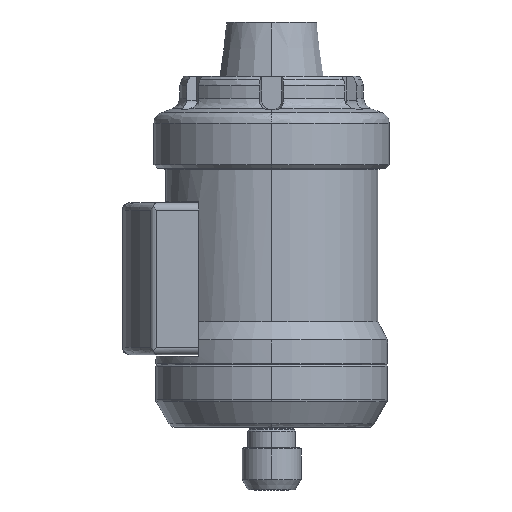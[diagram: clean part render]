
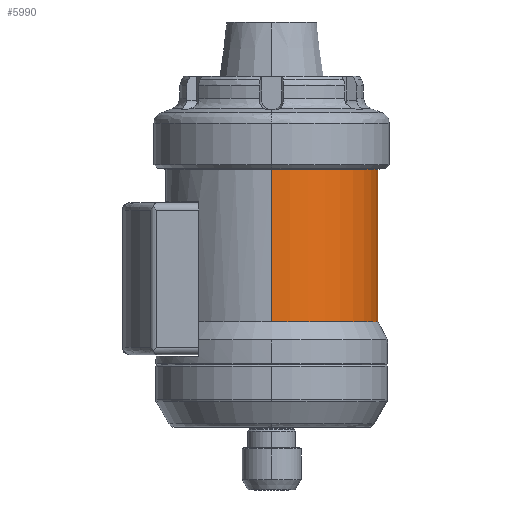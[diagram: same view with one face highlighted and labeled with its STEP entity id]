
A CAD part, front view. The second image highlights one B-rep face of the part: STEP entity #5990.
In plain terms, the highlighted cylindrical face has radius 28.85 mm (diameter 57.7 mm), a partial arc.
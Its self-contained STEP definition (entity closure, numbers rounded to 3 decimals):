
#59 = FACE_OUTER_BOUND ( 'NONE', #4779, .T. ) ;
#143 = CARTESIAN_POINT ( 'NONE',  ( 0., 28.85, -143.852 ) ) ;
#225 = AXIS2_PLACEMENT_3D ( 'NONE', #834, #5838, #6292 ) ;
#238 = DIRECTION ( 'NONE',  ( 0., 0., -1. ) ) ;
#800 = VERTEX_POINT ( 'NONE', #5723 ) ;
#834 = CARTESIAN_POINT ( 'NONE',  ( 0., 0., -12.6 ) ) ;
#1506 = EDGE_CURVE ( 'NONE', #6066, #5614, #5936, .T. ) ;
#1638 = CIRCLE ( 'NONE', #225, 28.85 ) ;
#1893 = CARTESIAN_POINT ( 'NONE',  ( 0., -28.85, -143.852 ) ) ;
#2293 = CYLINDRICAL_SURFACE ( 'NONE', #3183, 28.85 ) ;
#2496 = EDGE_CURVE ( 'NONE', #6066, #800, #1638, .T. ) ;
#2939 = VECTOR ( 'NONE', #238, 1000. ) ;
#3046 = EDGE_CURVE ( 'NONE', #800, #5671, #4247, .T. ) ;
#3183 = AXIS2_PLACEMENT_3D ( 'NONE', #5606, #6207, #6850 ) ;
#3231 = CIRCLE ( 'NONE', #4426, 28.85 ) ;
#3688 = ORIENTED_EDGE ( 'NONE', *, *, #3046, .T. ) ;
#4011 = ORIENTED_EDGE ( 'NONE', *, *, #2496, .T. ) ;
#4247 = LINE ( 'NONE', #1893, #2939 ) ;
#4426 = AXIS2_PLACEMENT_3D ( 'NONE', #6220, #6295, #5102 ) ;
#4734 = EDGE_CURVE ( 'NONE', #5671, #5614, #3231, .T. ) ;
#4779 = EDGE_LOOP ( 'NONE', ( #4011, #3688, #5008, #5794 ) ) ;
#4799 = VECTOR ( 'NONE', #5760, 1000. ) ;
#4844 = CARTESIAN_POINT ( 'NONE',  ( 0., 28.85, -12.6 ) ) ;
#5008 = ORIENTED_EDGE ( 'NONE', *, *, #4734, .T. ) ;
#5102 = DIRECTION ( 'NONE',  ( 0., 1., 0. ) ) ;
#5606 = CARTESIAN_POINT ( 'NONE',  ( 0., 0., -143.852 ) ) ;
#5614 = VERTEX_POINT ( 'NONE', #6386 ) ;
#5671 = VERTEX_POINT ( 'NONE', #5976 ) ;
#5723 = CARTESIAN_POINT ( 'NONE',  ( 0., -28.85, -12.6 ) ) ;
#5760 = DIRECTION ( 'NONE',  ( 0., 0., -1. ) ) ;
#5794 = ORIENTED_EDGE ( 'NONE', *, *, #1506, .F. ) ;
#5838 = DIRECTION ( 'NONE',  ( 0., 0., -1. ) ) ;
#5936 = LINE ( 'NONE', #143, #4799 ) ;
#5976 = CARTESIAN_POINT ( 'NONE',  ( 0., -28.85, -54.1 ) ) ;
#5990 = ADVANCED_FACE ( 'NONE', ( #59 ), #2293, .T. ) ;
#6066 = VERTEX_POINT ( 'NONE', #4844 ) ;
#6207 = DIRECTION ( 'NONE',  ( 0., 0., -1. ) ) ;
#6220 = CARTESIAN_POINT ( 'NONE',  ( 0., 0., -54.1 ) ) ;
#6292 = DIRECTION ( 'NONE',  ( 0., 1., 0. ) ) ;
#6295 = DIRECTION ( 'NONE',  ( 0., 0., 1. ) ) ;
#6386 = CARTESIAN_POINT ( 'NONE',  ( 0., 28.85, -54.1 ) ) ;
#6850 = DIRECTION ( 'NONE',  ( 0., 1., 0. ) ) ;
